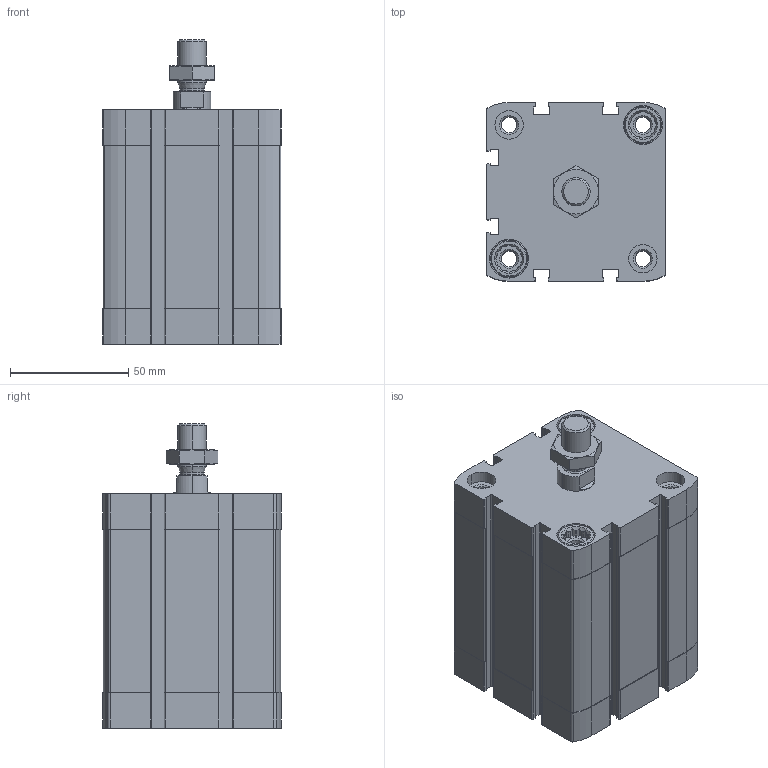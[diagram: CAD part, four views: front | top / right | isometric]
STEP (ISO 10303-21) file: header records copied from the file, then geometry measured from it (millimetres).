
FILE_DESCRIPTION (( 'STEP AP203' ), '1' );
FILE_NAME ('CCN63-50M.STEP', '2017-04-05T18:14:59', ( '' ), ( '' ), 'SwSTEP 2.0', 'SolidWorks 2016', '' );
FILE_SCHEMA (( 'CONFIG_CONTROL_DESIGN' ));
Length unit declared in the file: millimetre
Products named in the file (4): _DIN-439-B - M12x1.25(F); CCN63-50M; CCN---(Z); CCN_(KS)
Assembly tree (3 placements, depth 2):
  CCN63-50M
    CCN---(Z)
    CCN_(KS)
    _DIN-439-B - M12x1.25(F)
Bounding box: 75.5 x 75.5 x 128.5 mm (x, y, z)
Volume: 376655.8 mm3; surface area: 94303.3 mm2
Topology: 3 solids, 3 shells, 491 faces, 1320 edges, 866 vertices
Faces by surface type: plane 227, cylinder 212, cone 48, bspline 4
Entity records: 16112 total; most frequent: CARTESIAN_POINT 3143, DIRECTION 2680, ORIENTED_EDGE 2640, EDGE_CURVE 1320, AXIS2_PLACEMENT_3D 981, VERTEX_POINT 866, VECTOR 718, LINE 718
